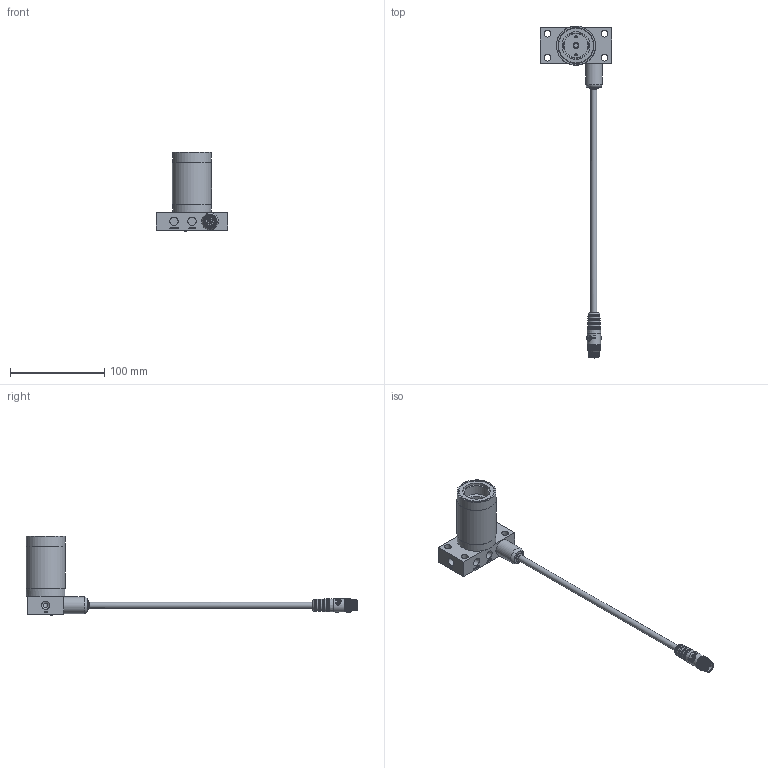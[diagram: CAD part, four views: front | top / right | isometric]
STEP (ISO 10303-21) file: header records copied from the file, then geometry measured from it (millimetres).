
FILE_DESCRIPTION(/* description */ ('ASSY,BODY,VF,IA,SXAR4,NHP_0002712311'),/* implementation_level */ '2;1');
FILE_NAME(/* name */ 'X:\ASSY,BODY,VF,IA,SXAR4,NHP_0002712311.stp',/* time_stamp */ '2021-07-07T14:10:30-04:00',/* author */ ('Simon.Britton'),/* organization */ (''),/* preprocessor_version */ 'ST-DEVELOPER v17',/* originating_system */ 'Autodesk Inventor 2019',/* authorisation */ '');
FILE_SCHEMA (('AUTOMOTIVE_DESIGN { 1 0 10303 214 3 1 1 }'));
Length unit declared in the file: millimetre
Products named in the file (1): ASSY,BODY,VF,IA,SXAR4,NHP_0002712311
Bounding box: 76.2 x 351.53 x 84 mm (x, y, z)
Volume: 115044.3 mm3; surface area: 64944.9 mm2
Topology: 1 solids, 71 shells, 3944 faces, 9305 edges, 5569 vertices
Faces by surface type: bspline 2506, plane 700, cylinder 659, cone 43, torus 23, sphere 13
Full cylindrical faces by diameter (mm): 1 x5, 1.05 x5, 1.25 x10, 1.35 x5, 1.6 x10, 2 x1, 2.381 x2, 2.464 x1, 2.7 x1, 2.997 x4, 4.366 x1, 4.496 x6, 4.763 x4, 4.8 x3, 6.35 x3, 6.4 x1, 6.5 x1, 7.144 x4, 8.731 x8, 9.4 x1, 9.7 x2, 10.6 x2, 10.9 x1, 12 x4, 12.7 x1, 13.31 x1, 13.5 x1, 13.716 x1, 14 x1, 18 x1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
Entity records: 255514 total; most frequent: CARTESIAN_POINT 171429, ORIENTED_EDGE 18572, DIRECTION 13360, EDGE_CURVE 9286, AXIS2_PLACEMENT_3D 5690, VERTEX_POINT 5569, CIRCLE 4178, EDGE_LOOP 4114
